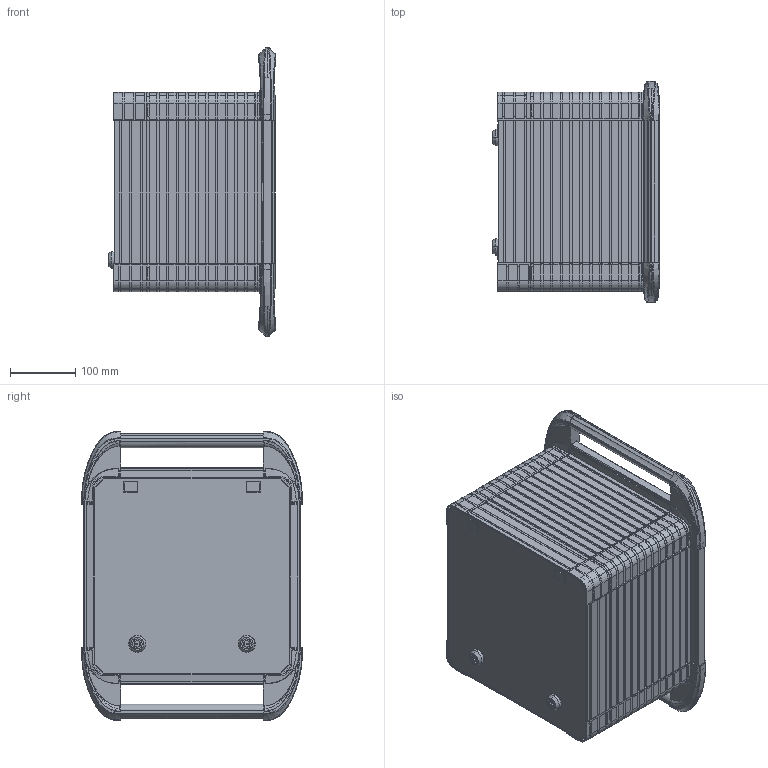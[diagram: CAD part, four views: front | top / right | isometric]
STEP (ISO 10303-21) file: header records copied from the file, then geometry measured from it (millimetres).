
FILE_DESCRIPTION (( 'STEP AP214' ), '1' );
FILE_NAME ('KL-1-230-230-230.step', '2019-11-15T03:35:58', ( 'IT Division' ), ( 'IT' ), 'SwSTEP 2.0', 'SolidWorks 2016', '' );
FILE_SCHEMA (( 'AUTOMOTIVE_DESIGN' ));
Length unit declared in the file: millimetre
Products named in the file (1): KL-1-230-230-230
Bounding box: 256.34 x 337.27 x 441.68 mm (x, y, z)
Volume: 2902306.4 mm3; surface area: 1463718.7 mm2
Topology: 4 solids, 8 shells, 4987 faces, 14064 edges, 9094 vertices
Faces by surface type: plane 2569, cylinder 1151, bspline 1041, cone 174, sphere 44, torus 8
Entity records: 350325 total; most frequent: CARTESIAN_POINT 179483, ORIENTED_EDGE 28048, DIRECTION 18620, EDGE_CURVE 14024, VERTEX_POINT 9074, VECTOR 8114, LINE 8114, AXIS2_PLACEMENT_3D 5253
